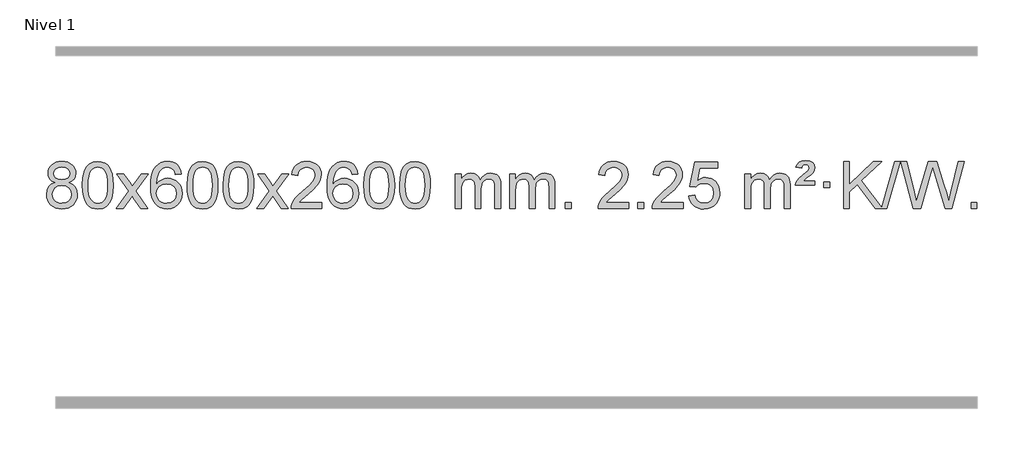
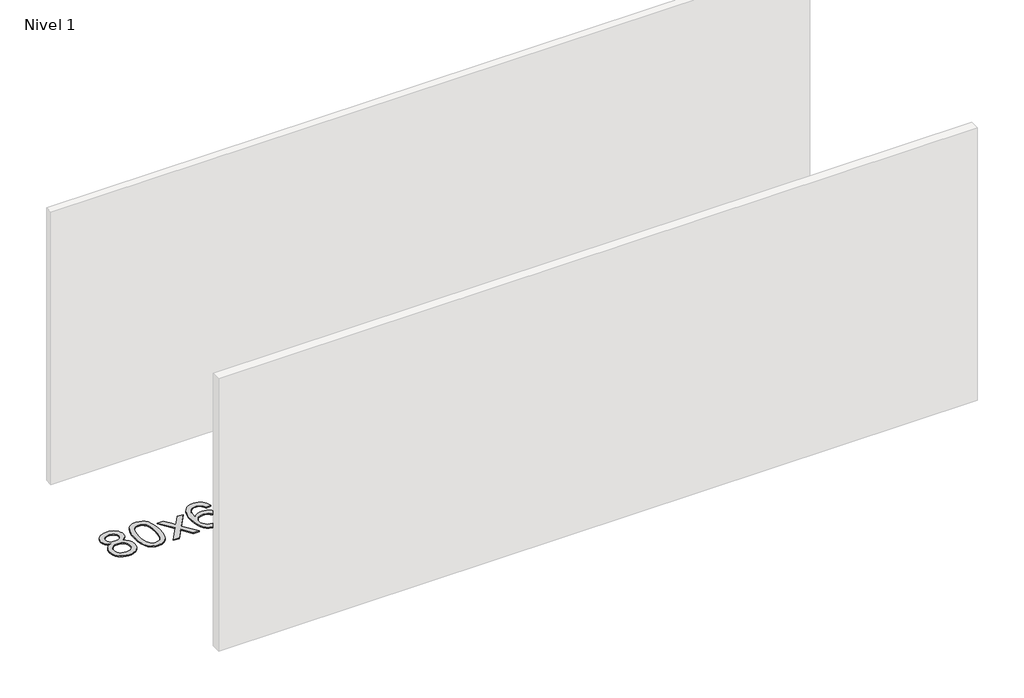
# One storey, part 5 of 9: 1 proxy.
"""IFC4 building model written with IfcOpenShell, lengths in millimetres."""

from ifc_helpers import new_model, si_unit, origin, origin_with_axes, place, context, project, spatial, polyline, outline, extrude, element, save

model = new_model("IFC4")

# Units and contexts
model_context = context("Model", 3, world=origin())
ifc_project = project(units=[si_unit("LENGTHUNIT", "METRE", prefix="MILLI")], contexts=[model_context])

# Site, building, storey
site = spatial("IfcSite", under=ifc_project)
building = spatial("IfcBuilding", under=site)
storey = spatial("IfcBuildingStorey", under=building, Name="Nivel 1", Elevation=0.0)

# Proxy
placement = place(None, origin())
element("IfcBuildingElementProxy", 1, Name="Texto de modelo 1", ObjectType="Texto de modelo 1", at=placement, inside=storey, context=model_context, shape_type="SweptSolid", body=[
    extrude(outline(polyline([(5163.1905562, -6174.2616447), (5136.2983823, -6161.0178929), (5117.426036, -6143.0652515), (5106.2792115, -6120.7716026), (5102.5636034, -6094.5048281), (5104.5869544, -6074.0199324), (5110.6570073, -6055.2395565), (5120.7737622, -6038.1637006), (5134.937219, -6022.7923645), (5152.466796, -6010.088173), (5172.6819117, -6001.0137504), (5195.5825659, -5995.5690969), (5221.1687586, -5993.7542124), (5246.8775787, -5995.6120165), (5269.9499112, -6001.1854287), (5290.385756, -6010.4744491), (5308.1851132, -6023.4790776), (5322.6060874, -6039.1508506), (5332.9067833, -6056.4413044), (5339.0872008, -6075.3504389), (5341.14734, -6095.8782543), (5337.4807828, -6121.2989001), (5326.4811111, -6143.2124043), (5308.0256977, -6161.0546811), (5281.9919152, -6174.2616447), (5312.9062655, -6190.1909351), (5335.4083809, -6213.6495436), (5349.1303793, -6243.5092989), (5353.7043788, -6278.6420295), (5351.4357731, -6303.6947933), (5344.6299562, -6326.6628926), (5333.286928, -6347.5463272), (5317.4066886, -6366.3450971), (5297.8231037, -6381.88198), (5275.3700393, -6392.9797536), (5250.0474953, -6399.6384177), (5221.8554717, -6401.8579724), (5193.6634481, -6399.6292206), (5168.3409041, -6392.9429654), (5145.8878397, -6381.7992066), (5126.3042548, -6366.1979443), (5110.4240154, -6347.26735), (5099.0809872, -6326.135595), (5092.2751703, -6302.8026795), (5090.0065646, -6277.2686033), (5094.7645051, -6240.7747094), (5109.0383265, -6210.7555386), (5132.0922649, -6188.2411605), (5163.1905562, -6174.2616447)]), holes=[polyline([(5152.7917585, -6095.9763561), (5157.2431306, -6117.902123), (5170.597247, -6135.413306), (5192.4617003, -6146.8912243), (5222.4440829, -6150.717197), (5251.7274897, -6146.9157497), (5273.2608492, -6135.5114079), (5286.504601, -6118.5888361), (5290.9191849, -6098.232699), (5286.3574482, -6077.1040098), (5272.672238, -6059.629615), (5250.8445729, -6047.8941794), (5221.8554717, -6043.9823675), (5192.6824295, -6047.8083402), (5170.8915526, -6059.2862585), (5157.316707, -6076.1107284), (5152.7917585, -6095.9763561)]), polyline([(5140.2347197, -6275.5027698), (5142.3316471, -6294.7184726), (5148.6224292, -6313.3210389), (5160.2352375, -6329.5446349), (5178.2982435, -6341.623427), (5199.9297048, -6349.1282197), (5222.2478792, -6351.6298173), (5256.4363792, -6346.3691048), (5270.3300559, -6339.7932141), (5282.090017, -6330.5869672), (5298.129672, -6306.6869002), (5303.4762237, -6277.0723996), (5297.9579938, -6246.9551269), (5281.403304, -6222.5277625), (5269.3245118, -6213.0854579), (5255.161055, -6206.3409547), (5220.5801474, -6200.9453521), (5186.869894, -6206.2673783), (5173.1325671, -6212.919911), (5161.4737736, -6222.2334569), (5145.5444832, -6246.1948375), (5140.2347197, -6275.5027698)])]), origin_with_axes(), (0.0, 0.0, 1.0), 10.0),
    extrude(outline(polyline([(5397.6540145, -6197.9041943), (5401.3450971, -6133.5861588), (5412.4183452, -6082.2911459), (5430.763394, -6043.2343407), (5442.621457, -6028.0009605), (5456.269879, -6015.6309284), (5471.7546453, -6006.0598651), (5489.1217412, -5999.2233914), (5529.5029215, -5993.7542124), (5560.4540601, -5996.991574), (5588.167837, -6006.7036586), (5611.3444027, -6022.5103217), (5628.6839074, -6044.0314184), (5641.7805065, -6071.0830078), (5652.2283551, -6103.4811488), (5659.0709602, -6144.6226186), (5661.3518286, -6197.9041943), (5657.6975341, -6261.8543477), (5646.7346507, -6313.0267333), (5628.4999664, -6352.1203266), (5616.6694946, -6367.3996922), (5603.0302696, -6379.8341036), (5587.5271092, -6389.4695462), (5570.1048311, -6396.3520052), (5529.5029215, -6401.8579724), (5501.8381955, -6399.4667394), (5477.3127291, -6392.2930405), (5455.9265225, -6380.3368757), (5437.6795755, -6363.5982449), (5420.1683926, -6333.3399508), (5407.6604047, -6295.6381776), (5400.155612, -6250.4929255), (5397.6540145, -6197.9041943)]), holes=[polyline([(5447.8821695, -6197.8060924), (5449.3536975, -6241.4706195), (5453.7682815, -6276.8148822), (5461.1259214, -6303.8388804), (5471.4266172, -6322.5426142), (5483.8855541, -6335.2682656), (5497.7179171, -6344.3580165), (5512.9237063, -6349.8118671), (5529.5029215, -6351.6298173), (5546.0821368, -6349.8057357), (5561.2879259, -6344.3334911), (5575.1202889, -6335.2130833), (5587.5792258, -6322.4445124), (5597.8799217, -6303.7101217), (5605.2375616, -6276.6922549), (5609.6521455, -6241.3909118), (5611.1236735, -6197.8060924), (5609.7011965, -6155.2973278), (5605.4337653, -6120.5753989), (5598.3213801, -6093.6403055), (5588.3640408, -6074.4920476), (5576.1135703, -6061.1440625), (5562.1217918, -6051.6097875), (5546.3887051, -6045.8892225), (5528.9143103, -6043.9823675), (5512.4209342, -6045.6623619), (5497.4726625, -6050.7023452), (5484.0694951, -6059.1023175), (5472.2114321, -6070.8622786), (5461.5673797, -6091.708925), (5453.9644852, -6119.8151094), (5449.4027484, -6155.1808319), (5447.8821695, -6197.8060924)])]), origin_with_axes(), (0.0, 0.0, 1.0), 10.0),
    extrude(outline(polyline([(5686.4659061, -6395.579453), (5793.7893469, -6247.2494325), (5692.7444255, -6100.4890419), (5753.1751746, -6100.4890419), (5801.9318017, -6171.122385), (5824.6914345, -6204.4770192), (5844.4099094, -6177.2047007), (5899.9355652, -6100.4890419), (5960.3663143, -6100.4890419), (5854.2200959, -6247.2494325), (5956.4422397, -6395.579453), (5896.0114906, -6395.579453), (5834.501621, -6306.4048574), (5823.2199065, -6290.1199477), (5746.8966552, -6395.579453), (5686.4659061, -6395.579453)])), origin_with_axes(), (0.0, 0.0, 1.0), 10.0),
    extrude(outline(polyline([(6245.2541313, -6100.4890419), (6195.0259763, -6106.7675613), (6186.9325724, -6081.874213), (6175.9942144, -6064.8780648), (6153.2100561, -6049.2062918), (6125.6679574, -6043.9823675), (6102.3197135, -6047.0235253), (6080.3448956, -6056.1469988), (6061.4725493, -6075.3627017), (6046.0582937, -6101.8134171), (6035.6472332, -6139.227016), (6031.7844723, -6191.3313693), (6051.9321429, -6167.8237098), (6076.0774645, -6151.2567573), (6102.8715365, -6141.434308), (6130.9654582, -6138.1601582), (6155.0985171, -6140.398107), (6177.3676405, -6147.1119534), (6197.7728285, -6158.3016975), (6216.3140811, -6173.9673391), (6231.7222053, -6193.1769106), (6242.7280083, -6214.9984443), (6249.3314901, -6239.4319401), (6251.5326507, -6266.4773982), (6247.3878469, -6302.4439945), (6234.9534355, -6335.786366), (6215.259486, -6364.0642287), (6189.3360681, -6384.8372987), (6158.3604041, -6397.602804), (6123.5097164, -6401.8579724), (6093.5671877, -6399.0375437), (6066.5247954, -6390.5762579), (6042.3825394, -6376.4741147), (6021.1404199, -6356.7311143), (6003.822375, -6330.5133908), (5991.4523429, -6296.9870783), (5984.0303236, -6256.1521768), (5981.5563172, -6208.0086864), (5984.3031694, -6154.0342663), (5992.5437261, -6107.9693092), (6006.2779873, -6069.8138149), (6025.5059529, -6039.5677835), (6046.3464679, -6019.5243462), (6070.5101836, -6005.2076052), (6097.9971, -5996.6175606), (6128.8072171, -5993.7542124), (6151.9408633, -5995.5261773), (6172.8794802, -6000.8420722), (6191.6230678, -6009.7018969), (6208.1716262, -6022.1056515), (6222.0775656, -6037.6364031), (6232.8932963, -6055.8772186), (6240.6188182, -6076.8280983), (6245.2541313, -6100.4890419)]), holes=[polyline([(6031.7844723, -6265.6925832), (6034.69074, -6287.9494439), (6043.4095433, -6309.2007605), (6056.9476007, -6327.472233), (6074.3116309, -6340.7895612), (6095.2686419, -6348.9197533), (6119.5856418, -6351.6298173), (6152.7318096, -6346.0134855), (6166.646946, -6338.9930708), (6178.7901175, -6329.1644901), (6188.640158, -6316.9262824), (6195.6759011, -6302.6769865), (6201.3044957, -6268.1451299), (6195.7494775, -6234.9989621), (6188.8057049, -6221.3781312), (6179.0844231, -6209.725469), (6166.9044634, -6200.3904634), (6152.5846568, -6193.7226022), (6117.5255026, -6188.3883133), (6084.4283858, -6193.7226022), (6056.751397, -6209.725469), (6045.8283674, -6221.2248471), (6038.0262035, -6234.3858254), (6033.3449051, -6249.2084042), (6031.7844723, -6265.6925832)])]), origin_with_axes(), (0.0, 0.0, 1.0), 10.0),
    extrude(outline(polyline([(6295.4822864, -6197.9041943), (6299.1733691, -6133.5861588), (6310.2466172, -6082.2911459), (6328.591666, -6043.2343407), (6340.449729, -6028.0009605), (6354.098151, -6015.6309284), (6369.5829173, -6006.0598651), (6386.9500131, -5999.2233914), (6427.3311935, -5993.7542124), (6458.282332, -5996.991574), (6485.996109, -6006.7036586), (6509.1726747, -6022.5103217), (6526.5121794, -6044.0314184), (6539.6087784, -6071.0830078), (6550.0566271, -6103.4811488), (6556.8992322, -6144.6226186), (6559.1801006, -6197.9041943), (6555.5258061, -6261.8543477), (6544.5629226, -6313.0267333), (6526.3282384, -6352.1203266), (6514.4977666, -6367.3996922), (6500.8585416, -6379.8341036), (6485.3553812, -6389.4695462), (6467.933103, -6396.3520052), (6427.3311935, -6401.8579724), (6399.6664674, -6399.4667394), (6375.1410011, -6392.2930405), (6353.7547945, -6380.3368757), (6335.5078475, -6363.5982449), (6317.9966645, -6333.3399508), (6305.4886767, -6295.6381776), (6297.983884, -6250.4929255), (6295.4822864, -6197.9041943)]), holes=[polyline([(6345.7104415, -6197.8060924), (6347.1819695, -6241.4706195), (6351.5965534, -6276.8148822), (6358.9541933, -6303.8388804), (6369.2548892, -6322.5426142), (6381.7138261, -6335.2682656), (6395.5461891, -6344.3580165), (6410.7519782, -6349.8118671), (6427.3311935, -6351.6298173), (6443.9104087, -6349.8057357), (6459.1161979, -6344.3334911), (6472.9485609, -6335.2130833), (6485.4074978, -6322.4445124), (6495.7081937, -6303.7101217), (6503.0658336, -6276.6922549), (6507.4804175, -6241.3909118), (6508.9519455, -6197.8060924), (6507.5294684, -6155.2973278), (6503.2620373, -6120.5753989), (6496.1496521, -6093.6403055), (6486.1923127, -6074.4920476), (6473.9418423, -6061.1440625), (6459.9500637, -6051.6097875), (6444.2169771, -6045.8892225), (6426.7425823, -6043.9823675), (6410.2492062, -6045.6623619), (6395.3009344, -6050.7023452), (6381.8977671, -6059.1023175), (6370.0397041, -6070.8622786), (6359.3956517, -6091.708925), (6351.7927571, -6119.8151094), (6347.2310204, -6155.1808319), (6345.7104415, -6197.8060924)])]), origin_with_axes(), (0.0, 0.0, 1.0), 10.0),
    extrude(outline(polyline([(6603.1297362, -6197.9041943), (6606.8208189, -6133.5861588), (6617.894067, -6082.2911459), (6636.2391158, -6043.2343407), (6648.0971788, -6028.0009605), (6661.7456008, -6015.6309284), (6677.2303671, -6006.0598651), (6694.597463, -5999.2233914), (6734.9786433, -5993.7542124), (6765.9297818, -5996.991574), (6793.6435588, -6006.7036586), (6816.8201245, -6022.5103217), (6834.1596292, -6044.0314184), (6847.2562282, -6071.0830078), (6857.7040769, -6103.4811488), (6864.546682, -6144.6226186), (6866.8275504, -6197.9041943), (6863.1732559, -6261.8543477), (6852.2103725, -6313.0267333), (6833.9756882, -6352.1203266), (6822.1452164, -6367.3996922), (6808.5059914, -6379.8341036), (6793.002831, -6389.4695462), (6775.5805529, -6396.3520052), (6734.9786433, -6401.8579724), (6707.3139173, -6399.4667394), (6682.7884509, -6392.2930405), (6661.4022443, -6380.3368757), (6643.1552973, -6363.5982449), (6625.6441144, -6333.3399508), (6613.1361265, -6295.6381776), (6605.6313338, -6250.4929255), (6603.1297362, -6197.9041943)]), holes=[polyline([(6653.3578913, -6197.8060924), (6654.8294193, -6241.4706195), (6659.2440032, -6276.8148822), (6666.6016432, -6303.8388804), (6676.902339, -6322.5426142), (6689.3612759, -6335.2682656), (6703.1936389, -6344.3580165), (6718.3994281, -6349.8118671), (6734.9786433, -6351.6298173), (6751.5578586, -6349.8057357), (6766.7636477, -6344.3334911), (6780.5960107, -6335.2130833), (6793.0549476, -6322.4445124), (6803.3556435, -6303.7101217), (6810.7132834, -6276.6922549), (6815.1278673, -6241.3909118), (6816.5993953, -6197.8060924), (6815.1769183, -6155.2973278), (6810.9094871, -6120.5753989), (6803.7971019, -6093.6403055), (6793.8397625, -6074.4920476), (6781.5892921, -6061.1440625), (6767.5975136, -6051.6097875), (6751.8644269, -6045.8892225), (6734.3900321, -6043.9823675), (6717.896656, -6045.6623619), (6702.9483843, -6050.7023452), (6689.5452169, -6059.1023175), (6677.6871539, -6070.8622786), (6667.0431015, -6091.708925), (6659.440207, -6119.8151094), (6654.8784702, -6155.1808319), (6653.3578913, -6197.8060924)])]), origin_with_axes(), (0.0, 0.0, 1.0), 10.0),
    extrude(outline(polyline([(6891.9416279, -6395.579453), (6999.2650687, -6247.2494325), (6898.2201473, -6100.4890419), (6958.6508964, -6100.4890419), (7007.4075235, -6171.122385), (7030.1671563, -6204.4770192), (7049.8856312, -6177.2047007), (7105.411287, -6100.4890419), (7165.8420361, -6100.4890419), (7059.6958177, -6247.2494325), (7161.9179615, -6395.579453), (7101.4872124, -6395.579453), (7039.9773428, -6306.4048574), (7028.6956283, -6290.1199477), (6952.372377, -6395.579453), (6891.9416279, -6395.579453)])), origin_with_axes(), (0.0, 0.0, 1.0), 10.0),
    extrude(outline(polyline([(7450.7298531, -6345.3512979), (7450.7298531, -6395.579453), (7187.032039, -6395.579453), (7188.135685, -6377.8965918), (7192.4276416, -6360.9494945), (7204.8130021, -6333.8856424), (7222.9373217, -6307.6311307), (7249.1550452, -6280.1503456), (7285.8206174, -6249.4076736), (7340.0218981, -6201.2641831), (7372.5426664, -6165.7267824), (7388.8030506, -6136.884834), (7394.2231787, -6108.8277005), (7389.1096189, -6083.6768347), (7373.7689397, -6062.7688747), (7350.1877039, -6048.6789943), (7320.352474, -6043.9823675), (7289.0211908, -6048.5686297), (7264.6796654, -6062.3274163), (7248.9711042, -6084.1796068), (7243.5387135, -6113.0460807), (7193.3105584, -6106.7675613), (7197.6301061, -6080.838012), (7205.4874524, -6058.1826125), (7216.8825972, -6038.8013627), (7231.8155405, -6022.6942627), (7249.9429259, -6010.0329907), (7270.9213966, -6000.989225), (7294.7509529, -5995.5629655), (7321.4315946, -5993.7542124), (7348.3513596, -5995.7653006), (7372.3096745, -6001.7985654), (7393.3065394, -6011.8540066), (7411.3419542, -6025.9316242), (7425.8273077, -6042.9890861), (7436.1739889, -6061.9840598), (7442.3819975, -6082.9165453), (7444.4513338, -6105.7865427), (7442.2195163, -6129.8092369), (7435.524064, -6153.4149983), (7423.6414756, -6177.4254299), (7405.8482497, -6202.6621347), (7377.4845479, -6232.7916701), (7333.8905315, -6271.4805933), (7276.1085328, -6319.795762), (7253.4470019, -6345.3512979), (7450.7298531, -6345.3512979)])), origin_with_axes(), (0.0, 0.0, 1.0), 10.0),
    extrude(outline(polyline([(7758.377303, -6100.4890419), (7708.1491479, -6106.7675613), (7700.055744, -6081.874213), (7689.117386, -6064.8780648), (7666.3332278, -6049.2062918), (7638.7911291, -6043.9823675), (7615.4428851, -6047.0235253), (7593.4680673, -6056.1469988), (7574.5957209, -6075.3627017), (7559.1814653, -6101.8134171), (7548.7704049, -6139.227016), (7544.9076439, -6191.3313693), (7565.0553145, -6167.8237098), (7589.2006361, -6151.2567573), (7615.9947081, -6141.434308), (7644.0886298, -6138.1601582), (7668.2216887, -6140.398107), (7690.4908121, -6147.1119534), (7710.8960001, -6158.3016975), (7729.4372527, -6173.9673391), (7744.8453769, -6193.1769106), (7755.8511799, -6214.9984443), (7762.4546617, -6239.4319401), (7764.6558224, -6266.4773982), (7760.5110185, -6302.4439945), (7748.0766071, -6335.786366), (7728.3826576, -6364.0642287), (7702.4592397, -6384.8372987), (7671.4835757, -6397.602804), (7636.632888, -6401.8579724), (7606.6903593, -6399.0375437), (7579.647967, -6390.5762579), (7555.505711, -6376.4741147), (7534.2635915, -6356.7311143), (7516.9455466, -6330.5133908), (7504.5755145, -6296.9870783), (7497.1534952, -6256.1521768), (7494.6794888, -6208.0086864), (7497.4263411, -6154.0342663), (7505.6668977, -6107.9693092), (7519.4011589, -6069.8138149), (7538.6291245, -6039.5677835), (7559.4696395, -6019.5243462), (7583.6333553, -6005.2076052), (7611.1202717, -5996.6175606), (7641.9303888, -5993.7542124), (7665.0640349, -5995.5261773), (7686.0026518, -6000.8420722), (7704.7462394, -6009.7018969), (7721.2947979, -6022.1056515), (7735.2007373, -6037.6364031), (7746.0164679, -6055.8772186), (7753.7419898, -6076.8280983), (7758.377303, -6100.4890419)]), holes=[polyline([(7544.9076439, -6265.6925832), (7547.8139117, -6287.9494439), (7556.5327149, -6309.2007605), (7570.0707724, -6327.472233), (7587.4348025, -6340.7895612), (7608.3918135, -6348.9197533), (7632.7088134, -6351.6298173), (7665.8549812, -6346.0134855), (7679.7701177, -6338.9930708), (7691.9132892, -6329.1644901), (7701.7633296, -6316.9262824), (7708.7990728, -6302.6769865), (7714.4276673, -6268.1451299), (7708.8726492, -6234.9989621), (7701.9288765, -6221.3781312), (7692.2075948, -6209.725469), (7680.027635, -6200.3904634), (7665.7078284, -6193.7226022), (7630.6486742, -6188.3883133), (7597.5515574, -6193.7226022), (7569.8745686, -6209.725469), (7558.9515391, -6221.2248471), (7551.1493751, -6234.3858254), (7546.4680767, -6249.2084042), (7544.9076439, -6265.6925832)])]), origin_with_axes(), (0.0, 0.0, 1.0), 10.0),
    extrude(outline(polyline([(7808.605458, -6197.9041943), (7812.2965407, -6133.5861588), (7823.3697888, -6082.2911459), (7841.7148376, -6043.2343407), (7853.5729006, -6028.0009605), (7867.2213226, -6015.6309284), (7882.7060889, -6006.0598651), (7900.0731848, -5999.2233914), (7940.4543651, -5993.7542124), (7971.4055036, -5996.991574), (7999.1192806, -6006.7036586), (8022.2958463, -6022.5103217), (8039.635351, -6044.0314184), (8052.73195, -6071.0830078), (8063.1797987, -6103.4811488), (8070.0224038, -6144.6226186), (8072.3032722, -6197.9041943), (8068.6489777, -6261.8543477), (8057.6860942, -6313.0267333), (8039.45141, -6352.1203266), (8027.6209382, -6367.3996922), (8013.9817132, -6379.8341036), (7998.4785528, -6389.4695462), (7981.0562747, -6396.3520052), (7940.4543651, -6401.8579724), (7912.7896391, -6399.4667394), (7888.2641727, -6392.2930405), (7866.8779661, -6380.3368757), (7848.6310191, -6363.5982449), (7831.1198361, -6333.3399508), (7818.6118483, -6295.6381776), (7811.1070556, -6250.4929255), (7808.605458, -6197.9041943)]), holes=[polyline([(7858.8336131, -6197.8060924), (7860.3051411, -6241.4706195), (7864.719725, -6276.8148822), (7872.0773649, -6303.8388804), (7882.3780608, -6322.5426142), (7894.8369977, -6335.2682656), (7908.6693607, -6344.3580165), (7923.8751499, -6349.8118671), (7940.4543651, -6351.6298173), (7957.0335804, -6349.8057357), (7972.2393695, -6344.3334911), (7986.0717325, -6335.2130833), (7998.5306694, -6322.4445124), (8008.8313653, -6303.7101217), (8016.1890052, -6276.6922549), (8020.6035891, -6241.3909118), (8022.0751171, -6197.8060924), (8020.6526401, -6155.2973278), (8016.3852089, -6120.5753989), (8009.2728237, -6093.6403055), (7999.3154843, -6074.4920476), (7987.0650139, -6061.1440625), (7973.0732354, -6051.6097875), (7957.3401487, -6045.8892225), (7939.8657539, -6043.9823675), (7923.3723778, -6045.6623619), (7908.4241061, -6050.7023452), (7895.0209387, -6059.1023175), (7883.1628757, -6070.8622786), (7872.5188233, -6091.708925), (7864.9159288, -6119.8151094), (7860.354192, -6155.1808319), (7858.8336131, -6197.8060924)])]), origin_with_axes(), (0.0, 0.0, 1.0), 10.0),
    extrude(outline(polyline([(8116.2529079, -6197.9041943), (8119.9439906, -6133.5861588), (8131.0172386, -6082.2911459), (8149.3622874, -6043.2343407), (8161.2203504, -6028.0009605), (8174.8687724, -6015.6309284), (8190.3535388, -6006.0598651), (8207.7206346, -5999.2233914), (8248.1018149, -5993.7542124), (8279.0529535, -5996.991574), (8306.7667304, -6006.7036586), (8329.9432961, -6022.5103217), (8347.2828008, -6044.0314184), (8360.3793999, -6071.0830078), (8370.8272485, -6103.4811488), (8377.6698537, -6144.6226186), (8379.950722, -6197.9041943), (8376.2964275, -6261.8543477), (8365.3335441, -6313.0267333), (8347.0988599, -6352.1203266), (8335.268388, -6367.3996922), (8321.6291631, -6379.8341036), (8306.1260026, -6389.4695462), (8288.7037245, -6396.3520052), (8248.1018149, -6401.8579724), (8220.4370889, -6399.4667394), (8195.9116226, -6392.2930405), (8174.5254159, -6380.3368757), (8156.278469, -6363.5982449), (8138.767286, -6333.3399508), (8126.2592981, -6295.6381776), (8118.7545054, -6250.4929255), (8116.2529079, -6197.9041943)]), holes=[polyline([(8166.481063, -6197.8060924), (8167.9525909, -6241.4706195), (8172.3671749, -6276.8148822), (8179.7248148, -6303.8388804), (8190.0255106, -6322.5426142), (8202.4844475, -6335.2682656), (8216.3168106, -6344.3580165), (8231.5225997, -6349.8118671), (8248.1018149, -6351.6298173), (8264.6810302, -6349.8057357), (8279.8868193, -6344.3334911), (8293.7191824, -6335.2130833), (8306.1781193, -6322.4445124), (8316.4788151, -6303.7101217), (8323.836455, -6276.6922549), (8328.251039, -6241.3909118), (8329.7225669, -6197.8060924), (8328.3000899, -6155.2973278), (8324.0326588, -6120.5753989), (8316.9202735, -6093.6403055), (8306.9629342, -6074.4920476), (8294.7124637, -6061.1440625), (8280.7206852, -6051.6097875), (8264.9875985, -6045.8892225), (8247.5132038, -6043.9823675), (8231.0198276, -6045.6623619), (8216.0715559, -6050.7023452), (8202.6683885, -6059.1023175), (8190.8103256, -6070.8622786), (8180.1662732, -6091.708925), (8172.5633786, -6119.8151094), (8168.0016419, -6155.1808319), (8166.481063, -6197.8060924)])]), origin_with_axes(), (0.0, 0.0, 1.0), 10.0),
    extrude(outline(polyline([(8593.4203811, -6395.579453), (8593.4203811, -6100.4890419), (8643.6485362, -6100.4890419), (8643.6485362, -6149.0494653), (8658.7562234, -6126.7435537), (8678.1803928, -6109.2691589), (8701.2588566, -6097.9751816), (8727.3294273, -6094.2105225), (8755.2639335, -6098.048758), (8777.6556843, -6109.5634645), (8794.3820523, -6127.9943524), (8805.3204103, -6152.5811324), (8823.6286709, -6127.0439906), (8844.5121055, -6108.803175), (8867.9707141, -6097.8586857), (8894.0044966, -6094.2105225), (8914.1123133, -6095.7280358), (8931.7614521, -6100.2805755), (8946.9519128, -6107.8681416), (8959.6836955, -6118.4907342), (8969.7483337, -6132.2709806), (8976.9373611, -6149.3315082), (8981.2507775, -6169.6723168), (8982.6885829, -6193.2934066), (8982.6885829, -6395.579453), (8932.4604278, -6395.579453), (8932.4604278, -6214.875817), (8931.2954682, -6189.8230531), (8927.8005892, -6172.9372695), (8921.2522897, -6161.3735121), (8910.9270684, -6152.2868268), (8897.6465284, -6146.4007149), (8882.2322728, -6144.4386776), (8855.0212679, -6149.4663982), (8832.8379835, -6164.54956), (8824.2326105, -6176.1194488), (8818.0859155, -6190.7182326), (8813.1685595, -6229.0024856), (8813.1685595, -6395.579453), (8762.9404045, -6395.579453), (8762.9404045, -6209.2840106), (8760.0341367, -6180.8835206), (8751.3153334, -6160.6254854), (8735.9746542, -6148.4853796), (8713.2027587, -6144.4386776), (8693.8521658, -6147.1364789), (8676.0221517, -6155.2298828), (8661.3068719, -6168.5226856), (8651.3004817, -6186.8186835), (8645.5615225, -6212.2025411), (8643.6485362, -6246.7589232), (8643.6485362, -6395.579453), (8593.4203811, -6395.579453)])), origin_with_axes(), (0.0, 0.0, 1.0), 10.0),
    extrude(outline(polyline([(9058.0308155, -6395.579453), (9058.0308155, -6100.4890419), (9108.2589706, -6100.4890419), (9108.2589706, -6149.0494653), (9123.3666579, -6126.7435537), (9142.7908272, -6109.2691589), (9165.869291, -6097.9751816), (9191.9398618, -6094.2105225), (9219.8743679, -6098.048758), (9242.2661187, -6109.5634645), (9258.9924868, -6127.9943524), (9269.9308448, -6152.5811324), (9288.2391054, -6127.0439906), (9309.12254, -6108.803175), (9332.5811485, -6097.8586857), (9358.6149311, -6094.2105225), (9378.7227478, -6095.7280358), (9396.3718865, -6100.2805755), (9411.5623472, -6107.8681416), (9424.2941299, -6118.4907342), (9434.3587682, -6132.2709806), (9441.5477955, -6149.3315082), (9445.8612119, -6169.6723168), (9447.2990174, -6193.2934066), (9447.2990174, -6395.579453), (9397.0708623, -6395.579453), (9397.0708623, -6214.875817), (9395.9059026, -6189.8230531), (9392.4110237, -6172.9372695), (9385.8627242, -6161.3735121), (9375.5375028, -6152.2868268), (9362.2569628, -6146.4007149), (9346.8427072, -6144.4386776), (9319.6317023, -6149.4663982), (9297.448418, -6164.54956), (9288.843045, -6176.1194488), (9282.69635, -6190.7182326), (9277.778994, -6229.0024856), (9277.778994, -6395.579453), (9227.5508389, -6395.579453), (9227.5508389, -6209.2840106), (9224.6445711, -6180.8835206), (9215.9257679, -6160.6254854), (9200.5850887, -6148.4853796), (9177.8131932, -6144.4386776), (9158.4626002, -6147.1364789), (9140.6325862, -6155.2298828), (9125.9173064, -6168.5226856), (9115.9109161, -6186.8186835), (9110.171957, -6212.2025411), (9108.2589706, -6246.7589232), (9108.2589706, -6395.579453), (9058.0308155, -6395.579453)])), origin_with_axes(), (0.0, 0.0, 1.0), 10.0),
    extrude(outline(polyline([(9535.1982887, -6395.579453), (9535.1982887, -6345.3512979), (9585.4264438, -6345.3512979), (9585.4264438, -6395.579453), (9535.1982887, -6395.579453)])), origin_with_axes(), (0.0, 0.0, 1.0), 10.0),
    extrude(outline(polyline([(10081.4294752, -6345.3512979), (10081.4294752, -6395.579453), (9817.731661, -6395.579453), (9818.835307, -6377.8965918), (9823.1272636, -6360.9494945), (9835.5126241, -6333.8856424), (9853.6369438, -6307.6311307), (9879.8546673, -6280.1503456), (9916.5202395, -6249.4076736), (9970.7215201, -6201.2641831), (10003.2422885, -6165.7267824), (10019.5026727, -6136.884834), (10024.9228007, -6108.8277005), (10019.809241, -6083.6768347), (10004.4685618, -6062.7688747), (9980.8873259, -6048.6789943), (9951.0520961, -6043.9823675), (9919.7208128, -6048.5686297), (9895.3792875, -6062.3274163), (9879.6707263, -6084.1796068), (9874.2383355, -6113.0460807), (9824.0101804, -6106.7675613), (9828.3297282, -6080.838012), (9836.1870745, -6058.1826125), (9847.5822193, -6038.8013627), (9862.5151626, -6022.6942627), (9880.6425479, -6010.0329907), (9901.6210187, -6000.989225), (9925.4505749, -5995.5629655), (9952.1312166, -5993.7542124), (9979.0509816, -5995.7653006), (10003.0092965, -6001.7985654), (10024.0061614, -6011.8540066), (10042.0415762, -6025.9316242), (10056.5269298, -6042.9890861), (10066.8736109, -6061.9840598), (10073.0816196, -6082.9165453), (10075.1509558, -6105.7865427), (10072.9191384, -6129.8092369), (10066.223686, -6153.4149983), (10054.3410976, -6177.4254299), (10036.5478718, -6202.6621347), (10008.1841699, -6232.7916701), (9964.5901535, -6271.4805933), (9906.8081548, -6319.795762), (9884.1466239, -6345.3512979), (10081.4294752, -6345.3512979)])), origin_with_axes(), (0.0, 0.0, 1.0), 10.0),
    extrude(outline(polyline([(10156.7717078, -6395.579453), (10156.7717078, -6345.3512979), (10206.9998629, -6345.3512979), (10206.9998629, -6395.579453), (10156.7717078, -6395.579453)])), origin_with_axes(), (0.0, 0.0, 1.0), 10.0),
    extrude(outline(polyline([(10546.0399096, -6345.3512979), (10546.0399096, -6395.579453), (10282.3420955, -6395.579453), (10283.4457415, -6377.8965918), (10287.7376981, -6360.9494945), (10300.1230586, -6333.8856424), (10318.2473782, -6307.6311307), (10344.4651017, -6280.1503456), (10381.1306739, -6249.4076736), (10435.3319545, -6201.2641831), (10467.8527229, -6165.7267824), (10484.1131071, -6136.884834), (10489.5332352, -6108.8277005), (10484.4196754, -6083.6768347), (10469.0789962, -6062.7688747), (10445.4977603, -6048.6789943), (10415.6625305, -6043.9823675), (10384.3312473, -6048.5686297), (10359.9897219, -6062.3274163), (10344.2811607, -6084.1796068), (10338.8487699, -6113.0460807), (10288.6206149, -6106.7675613), (10292.9401626, -6080.838012), (10300.7975089, -6058.1826125), (10312.1926537, -6038.8013627), (10327.125597, -6022.6942627), (10345.2529823, -6010.0329907), (10366.2314531, -6000.989225), (10390.0610093, -5995.5629655), (10416.741651, -5993.7542124), (10443.661416, -5995.7653006), (10467.619731, -6001.7985654), (10488.6165959, -6011.8540066), (10506.6520107, -6025.9316242), (10521.1373642, -6042.9890861), (10531.4840453, -6061.9840598), (10537.692054, -6082.9165453), (10539.7613902, -6105.7865427), (10537.5295728, -6129.8092369), (10530.8341205, -6153.4149983), (10518.951532, -6177.4254299), (10501.1583062, -6202.6621347), (10472.7946044, -6232.7916701), (10429.200588, -6271.4805933), (10371.4185892, -6319.795762), (10348.7570583, -6345.3512979), (10546.0399096, -6345.3512979)])), origin_with_axes(), (0.0, 0.0, 1.0), 10.0),
    extrude(outline(polyline([(10596.2680647, -6288.8446235), (10646.4962198, -6282.5661041), (10655.7177951, -6312.7201649), (10671.806501, -6334.3148381), (10694.6887611, -6347.3010725), (10724.290999, -6351.6298173), (10743.4208628, -6350.1245668), (10760.2943836, -6345.6088153), (10774.9115616, -6338.0825628), (10787.2723966, -6327.5458094), (10797.1009772, -6314.519721), (10804.121392, -6299.5254641), (10809.7377238, -6263.6324441), (10804.4770112, -6229.8363514), (10797.9011206, -6215.9181493), (10788.6948736, -6203.9865099), (10776.8276136, -6194.4154467), (10762.2686837, -6187.5789729), (10725.0758139, -6182.1097939), (10700.7097631, -6184.2925604), (10680.9790255, -6190.8408599), (10665.2214133, -6200.8717757), (10652.7747392, -6213.5023908), (10602.5465841, -6207.2238715), (10646.4962198, -6000.0327318), (10841.1303207, -6000.0327318), (10841.1303207, -6050.2608869), (10687.110392, -6050.2608869), (10665.6260835, -6160.919791), (10683.3518643, -6148.2155994), (10701.5068408, -6139.1411769), (10720.0910129, -6133.6965234), (10739.1043807, -6131.8816388), (10763.5654677, -6134.1318504), (10786.0338605, -6140.882485), (10806.5095593, -6152.1335427), (10824.9925638, -6167.8850234), (10840.2933891, -6187.1743027), (10851.2225501, -6209.038756), (10857.7800467, -6233.4783832), (10859.9658788, -6260.4931844), (10857.9977102, -6286.5147042), (10852.0932041, -6310.7213394), (10842.2523608, -6333.1130902), (10828.4751801, -6353.6899565), (10807.6040082, -6374.7634634), (10783.2502201, -6389.8159684), (10755.4138158, -6398.8474714), (10724.0947953, -6401.8579724), (10698.174443, -6399.9235262), (10674.7618197, -6394.1201877), (10653.8569254, -6384.447957), (10635.4597599, -6370.9068338), (10620.1528032, -6354.1712688), (10608.5185351, -6334.915712), (10600.5569556, -6313.1401636), (10596.2680647, -6288.8446235)])), origin_with_axes(), (0.0, 0.0, 1.0), 10.0),
    extrude(outline(polyline([(11073.4355379, -6395.579453), (11073.4355379, -6100.4890419), (11123.663693, -6100.4890419), (11123.663693, -6149.0494653), (11138.7713803, -6126.7435537), (11158.1955496, -6109.2691589), (11181.2740134, -6097.9751816), (11207.3445842, -6094.2105225), (11235.2790903, -6098.048758), (11257.6708411, -6109.5634645), (11274.3972091, -6127.9943524), (11285.3355671, -6152.5811324), (11303.6438278, -6127.0439906), (11324.5272623, -6108.803175), (11347.9858709, -6097.8586857), (11374.0196534, -6094.2105225), (11394.1274702, -6095.7280358), (11411.7766089, -6100.2805755), (11426.9670696, -6107.8681416), (11439.6988523, -6118.4907342), (11449.7634906, -6132.2709806), (11456.9525179, -6149.3315082), (11461.2659343, -6169.6723168), (11462.7037397, -6193.2934066), (11462.7037397, -6395.579453), (11412.4755847, -6395.579453), (11412.4755847, -6214.875817), (11411.310625, -6189.8230531), (11407.8157461, -6172.9372695), (11401.2674465, -6161.3735121), (11390.9422252, -6152.2868268), (11377.6616852, -6146.4007149), (11362.2474296, -6144.4386776), (11335.0364247, -6149.4663982), (11312.8531404, -6164.54956), (11304.2477674, -6176.1194488), (11298.1010724, -6190.7182326), (11293.1837164, -6229.0024856), (11293.1837164, -6395.579453), (11242.9555613, -6395.579453), (11242.9555613, -6209.2840106), (11240.0492935, -6180.8835206), (11231.3304902, -6160.6254854), (11215.989811, -6148.4853796), (11193.2179155, -6144.4386776), (11173.8673226, -6147.1364789), (11156.0373086, -6155.2298828), (11141.3220287, -6168.5226856), (11131.3156385, -6186.8186835), (11125.5766794, -6212.2025411), (11123.663693, -6246.7589232), (11123.663693, -6395.579453), (11073.4355379, -6395.579453)])), origin_with_axes(), (0.0, 0.0, 1.0), 10.0),
    extrude(outline(polyline([(11506.6533754, -6194.6668327), (11510.4793482, -6178.8479069), (11518.8180067, -6162.9799302), (11540.3268407, -6137.8413272), (11572.2835234, -6110.1030247), (11616.4293628, -6072.726214), (11623.5662735, -6061.1992448), (11625.9452437, -6049.3779701), (11624.0567828, -6037.2869152), (11618.3914001, -6027.5012541), (11609.022672, -6021.026531), (11596.0241748, -6018.8682899), (11583.5897634, -6020.4869707), (11574.73607, -6025.343013), (11568.3103978, -6034.8098431), (11563.1600499, -6050.2608869), (11512.9318948, -6043.9823675), (11523.7721509, -6018.7701881), (11540.4004171, -6001.2099542), (11564.165594, -5990.9092583), (11596.4165822, -5987.475693), (11632.1992376, -5991.6082341), (11656.9454332, -6004.0058573), (11671.3664074, -6022.3386434), (11676.1733988, -6044.2766731), (11672.0776459, -6067.1834586), (11659.7903873, -6088.8149199), (11639.262572, -6108.6314968), (11602.7932035, -6136.6886303), (11577.1886166, -6163.2742358), (11676.1733988, -6163.2742358), (11676.1733988, -6194.6668327), (11506.6533754, -6194.6668327)])), origin_with_axes(), (0.0, 0.0, 1.0), 10.0),
    extrude(outline(polyline([(11751.5156314, -6219.7809102), (11751.5156314, -6169.5527552), (11801.7437865, -6169.5527552), (11801.7437865, -6219.7809102), (11751.5156314, -6219.7809102)])), origin_with_axes(), (0.0, 0.0, 1.0), 10.0),
    extrude(outline(polyline([(12192.3854144, -6395.579453), (12038.954097, -6192.9009991), (11971.2638099, -6257.4520265), (11971.2638099, -6395.579453), (11921.0356548, -6395.579453), (11921.0356548, -5993.7542124), (11971.2638099, -5993.7542124), (11971.2638099, -6190.4484525), (12177.2777272, -5993.7542124), (12247.5186628, -5993.7542124), (12074.5650741, -6158.9577537), (12249.218684, -6389.5349332), (12360.5320117, -5993.7542124), (12405.8550735, -5993.7542124), (12292.8417246, -6395.579453), (12253.7971822, -6395.579453), (12247.5186628, -6395.579453), (12192.3854144, -6395.579453)])), origin_with_axes(), (0.0, 0.0, 1.0), 10.0),
    extrude(outline(polyline([(12520.3399504, -6395.579453), (12410.7601668, -5993.7542124), (12462.5579517, -5993.7542124), (12526.1279605, -6257.844434), (12545.7483335, -6339.3670841), (12566.7421327, -6267.2622131), (12646.4008474, -5993.7542124), (12721.056367, -5993.7542124), (12778.9364675, -6192.0180823), (12803.731714, -6265.5944814), (12822.0031864, -6339.3670841), (12841.0349483, -6260.1988788), (12905.1935683, -5993.7542124), (12956.9913532, -5993.7542124), (12847.3134677, -6395.579453), (12793.6517474, -6395.579453), (12697.3157155, -6085.5775584), (12683.87576, -6042.3146358), (12668.7680727, -6094.4067263), (12580.9669032, -6395.579453), (12520.3399504, -6395.579453)])), origin_with_axes(), (0.0, 0.0, 1.0), 10.0),
    extrude(outline(polyline([(13013.4980277, -6395.579453), (13013.4980277, -6345.3512979), (13063.7261827, -6345.3512979), (13063.7261827, -6395.579453), (13013.4980277, -6395.579453)])), origin_with_axes(), (0.0, 0.0, 1.0), 10.0),
])

save(model, "model.ifc")
